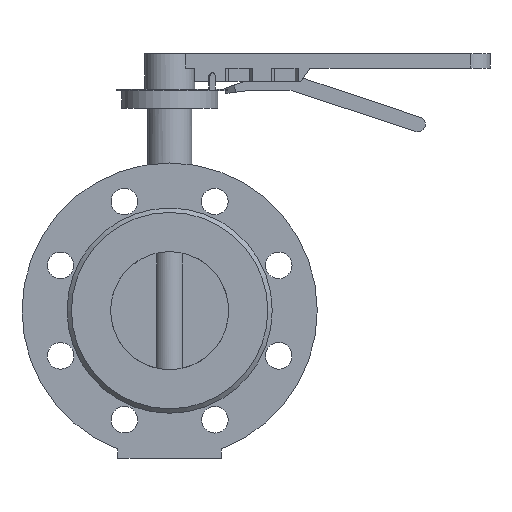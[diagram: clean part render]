
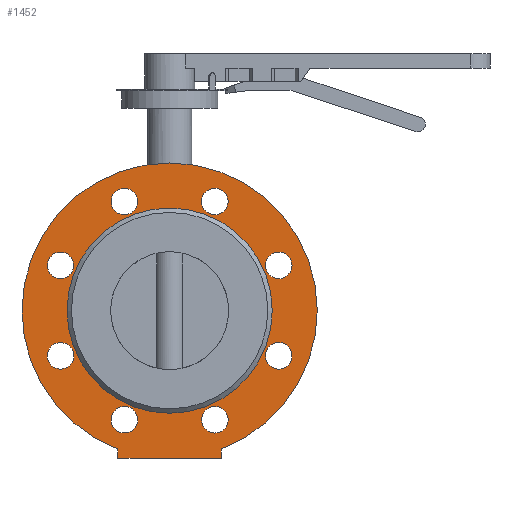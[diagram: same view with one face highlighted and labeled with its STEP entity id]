
A CAD part, front view. The second image highlights one B-rep face of the part: STEP entity #1452.
In plain terms, the highlighted planar face has unit normal (0, -1, 0).
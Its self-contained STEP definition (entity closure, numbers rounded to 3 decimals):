
#1452=ADVANCED_FACE('',(#2784,#2786,#2788,#2790,#2792,#2794,#2796,#2798,#2800,#2802),
#2804,.T.);
#2784=FACE_BOUND('',#2785,.T.);
#2785=EDGE_LOOP('',(#3751,#3752,#3753,#3754));
#2786=FACE_BOUND('',#2787,.T.);
#2787=EDGE_LOOP('',(#3755));
#2788=FACE_BOUND('',#2789,.T.);
#2789=EDGE_LOOP('',(#3756));
#2790=FACE_BOUND('',#2791,.T.);
#2791=EDGE_LOOP('',(#3757));
#2792=FACE_BOUND('',#2793,.T.);
#2793=EDGE_LOOP('',(#3758));
#2794=FACE_BOUND('',#2795,.T.);
#2795=EDGE_LOOP('',(#3759));
#2796=FACE_BOUND('',#2797,.T.);
#2797=EDGE_LOOP('',(#3760));
#2798=FACE_BOUND('',#2799,.T.);
#2799=EDGE_LOOP('',(#3761));
#2800=FACE_BOUND('',#2801,.T.);
#2801=EDGE_LOOP('',(#3762));
#2802=FACE_BOUND('',#2803,.T.);
#2803=EDGE_LOOP('',(#3763));
#2804=PLANE('',#2805);
#2805=AXIS2_PLACEMENT_3D('',#2806,#2807,#2808);
#2806=CARTESIAN_POINT('',(0.,-54.,0.));
#2807=DIRECTION('',(0.,-1.,0.));
#2808=DIRECTION('',(0.,0.,1.));
#3751=ORIENTED_EDGE('',*,*,#4199,.T.);
#3752=ORIENTED_EDGE('',*,*,#4198,.F.);
#3753=ORIENTED_EDGE('',*,*,#4195,.F.);
#3754=ORIENTED_EDGE('',*,*,#4194,.F.);
#3755=ORIENTED_EDGE('',*,*,#4215,.T.);
#3756=ORIENTED_EDGE('',*,*,#4216,.T.);
#3757=ORIENTED_EDGE('',*,*,#4217,.T.);
#3758=ORIENTED_EDGE('',*,*,#4218,.T.);
#3759=ORIENTED_EDGE('',*,*,#4219,.T.);
#3760=ORIENTED_EDGE('',*,*,#4220,.T.);
#3761=ORIENTED_EDGE('',*,*,#4221,.T.);
#3762=ORIENTED_EDGE('',*,*,#4245,.T.);
#3763=ORIENTED_EDGE('',*,*,#4222,.T.);
#4194=EDGE_CURVE('',#4895,#4893,#4897,.T.);
#4195=EDGE_CURVE('',#4893,#4898,#4899,.T.);
#4198=EDGE_CURVE('',#4898,#4901,#4903,.T.);
#4199=EDGE_CURVE('',#4895,#4901,#4904,.T.);
#4215=EDGE_CURVE('',#4926,#4926,#4927,.F.);
#4216=EDGE_CURVE('',#4928,#4928,#4929,.F.);
#4217=EDGE_CURVE('',#4930,#4930,#4931,.F.);
#4218=EDGE_CURVE('',#4932,#4932,#4933,.F.);
#4219=EDGE_CURVE('',#4934,#4934,#4935,.F.);
#4220=EDGE_CURVE('',#4936,#4936,#4937,.F.);
#4221=EDGE_CURVE('',#4938,#4938,#4939,.F.);
#4222=EDGE_CURVE('',#4940,#4940,#4941,.F.);
#4245=EDGE_CURVE('',#4979,#4979,#4980,.T.);
#4893=VERTEX_POINT('',#6907);
#4895=VERTEX_POINT('',#6911);
#4897=CIRCLE('',#6915,100.);
#4898=VERTEX_POINT('',#6919);
#4899=LINE('',#6920,#6921);
#4901=VERTEX_POINT('',#6926);
#4903=LINE('',#6930,#6931);
#4904=LINE('',#6933,#6934);
#4926=VERTEX_POINT('',#7190);
#4927=CIRCLE('',#7191,9.);
#4928=VERTEX_POINT('',#7195);
#4929=CIRCLE('',#7196,9.);
#4930=VERTEX_POINT('',#7200);
#4931=CIRCLE('',#7201,9.);
#4932=VERTEX_POINT('',#7205);
#4933=CIRCLE('',#7206,9.);
#4934=VERTEX_POINT('',#7210);
#4935=CIRCLE('',#7211,9.);
#4936=VERTEX_POINT('',#7215);
#4937=CIRCLE('',#7216,9.);
#4938=VERTEX_POINT('',#7220);
#4939=CIRCLE('',#7221,9.);
#4940=VERTEX_POINT('',#7225);
#4941=CIRCLE('',#7226,9.);
#4979=VERTEX_POINT('',#7322);
#4980=CIRCLE('',#7323,69.5);
#6907=CARTESIAN_POINT('',(35.,-54.,-93.675));
#6911=CARTESIAN_POINT('',(-35.,-54.,-93.675));
#6915=AXIS2_PLACEMENT_3D('',#6916,#6917,#6918);
#6916=CARTESIAN_POINT('',(0.,-54.,0.));
#6917=DIRECTION('',(0.,1.,0.));
#6918=DIRECTION('',(-0.35,0.,-0.937));
#6919=CARTESIAN_POINT('',(35.,-54.,-100.));
#6920=CARTESIAN_POINT('',(35.,-54.,-93.675));
#6921=VECTOR('',#6922,1.);
#6922=DIRECTION('',(0.,0.,-1.));
#6926=CARTESIAN_POINT('',(-35.,-54.,-100.));
#6930=CARTESIAN_POINT('',(35.,-54.,-100.));
#6931=VECTOR('',#6932,1.);
#6932=DIRECTION('',(-1.,0.,0.));
#6933=CARTESIAN_POINT('',(-35.,-54.,-93.675));
#6934=VECTOR('',#6935,1.);
#6935=DIRECTION('',(0.,0.,-1.));
#7190=CARTESIAN_POINT('',(36.979,-54.,67.546));
#7191=AXIS2_PLACEMENT_3D('',#7192,#7193,#7194);
#7192=CARTESIAN_POINT('',(30.615,-54.,73.91));
#7193=DIRECTION('',(0.,-1.,0.));
#7194=DIRECTION('',(0.707,0.,-0.707));
#7195=CARTESIAN_POINT('',(73.91,-54.,21.615));
#7196=AXIS2_PLACEMENT_3D('',#7197,#7198,#7199);
#7197=CARTESIAN_POINT('',(73.91,-54.,30.615));
#7198=DIRECTION('',(0.,-1.,0.));
#7199=DIRECTION('',(0.,0.,-1.));
#7200=CARTESIAN_POINT('',(67.546,-54.,-36.979));
#7201=AXIS2_PLACEMENT_3D('',#7202,#7203,#7204);
#7202=CARTESIAN_POINT('',(73.91,-54.,-30.615));
#7203=DIRECTION('',(0.,-1.,0.));
#7204=DIRECTION('',(-0.707,0.,-0.707));
#7205=CARTESIAN_POINT('',(21.615,-54.,-73.91));
#7206=AXIS2_PLACEMENT_3D('',#7207,#7208,#7209);
#7207=CARTESIAN_POINT('',(30.615,-54.,-73.91));
#7208=DIRECTION('',(0.,-1.,0.));
#7209=DIRECTION('',(-1.,0.,0.));
#7210=CARTESIAN_POINT('',(-36.979,-54.,-67.546));
#7211=AXIS2_PLACEMENT_3D('',#7212,#7213,#7214);
#7212=CARTESIAN_POINT('',(-30.615,-54.,-73.91));
#7213=DIRECTION('',(0.,-1.,0.));
#7214=DIRECTION('',(-0.707,0.,0.707));
#7215=CARTESIAN_POINT('',(-73.91,-54.,-21.615));
#7216=AXIS2_PLACEMENT_3D('',#7217,#7218,#7219);
#7217=CARTESIAN_POINT('',(-73.91,-54.,-30.615));
#7218=DIRECTION('',(0.,-1.,0.));
#7219=DIRECTION('',(0.,0.,1.));
#7220=CARTESIAN_POINT('',(-67.546,-54.,36.979));
#7221=AXIS2_PLACEMENT_3D('',#7222,#7223,#7224);
#7222=CARTESIAN_POINT('',(-73.91,-54.,30.615));
#7223=DIRECTION('',(0.,-1.,0.));
#7224=DIRECTION('',(0.707,0.,0.707));
#7225=CARTESIAN_POINT('',(-21.615,-54.,73.91));
#7226=AXIS2_PLACEMENT_3D('',#7227,#7228,#7229);
#7227=CARTESIAN_POINT('',(-30.615,-54.,73.91));
#7228=DIRECTION('',(0.,-1.,0.));
#7229=DIRECTION('',(1.,0.,0.));
#7322=CARTESIAN_POINT('',(0.,-54.,69.5));
#7323=AXIS2_PLACEMENT_3D('',#7324,#7325,#7326);
#7324=CARTESIAN_POINT('',(0.,-54.,0.));
#7325=DIRECTION('',(0.,1.,0.));
#7326=DIRECTION('',(0.,0.,1.));
